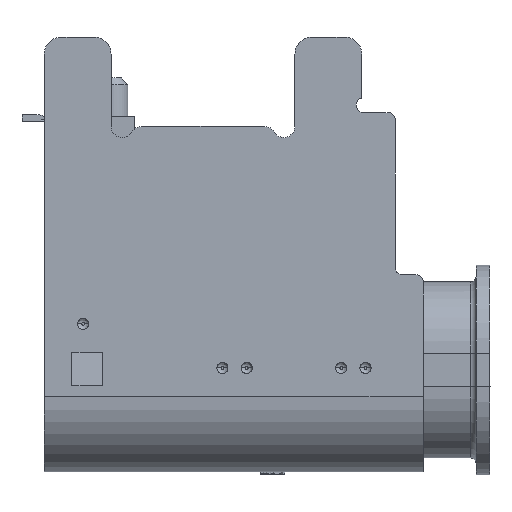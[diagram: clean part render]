
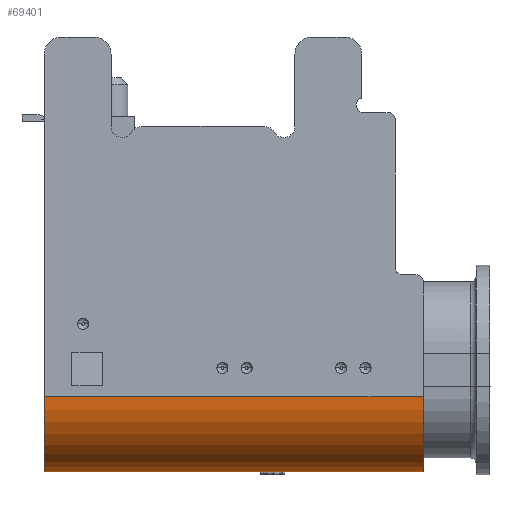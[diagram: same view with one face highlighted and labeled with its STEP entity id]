
A CAD part, left-side view. The second image highlights one B-rep face of the part: STEP entity #69401.
In plain terms, the highlighted cylindrical face has radius 1.35 mm (diameter 2.7 mm), a partial arc.
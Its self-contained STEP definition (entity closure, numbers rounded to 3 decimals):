
#99 = CIRCLE ( 'NONE', #64778, 1.35 ) ;
#1926 = VERTEX_POINT ( 'NONE', #2271 ) ;
#1936 = CIRCLE ( 'NONE', #4208, 1.35 ) ;
#2271 = CARTESIAN_POINT ( 'NONE',  ( -4.385, 2.821, 16.042 ) ) ;
#2750 = ORIENTED_EDGE ( 'NONE', *, *, #57543, .T. ) ;
#4208 = AXIS2_PLACEMENT_3D ( 'NONE', #35170, #23831, #56849 ) ;
#5917 = AXIS2_PLACEMENT_3D ( 'NONE', #26154, #8755, #41414 ) ;
#8376 = ORIENTED_EDGE ( 'NONE', *, *, #59628, .F. ) ;
#8755 = DIRECTION ( 'NONE',  ( 0., -1., 0. ) ) ;
#9784 = ORIENTED_EDGE ( 'NONE', *, *, #37291, .F. ) ;
#11524 = LINE ( 'NONE', #28555, #51788 ) ;
#15227 = VERTEX_POINT ( 'NONE', #39125 ) ;
#18314 = DIRECTION ( 'NONE',  ( 0., 1., 0. ) ) ;
#19003 = LINE ( 'NONE', #44965, #41565 ) ;
#19711 = EDGE_LOOP ( 'NONE', ( #9784, #48364, #8376, #2750 ) ) ;
#22943 = VERTEX_POINT ( 'NONE', #39833 ) ;
#23701 = FACE_OUTER_BOUND ( 'NONE', #19711, .T. ) ;
#23831 = DIRECTION ( 'NONE',  ( 0., -1., 0. ) ) ;
#26154 = CARTESIAN_POINT ( 'NONE',  ( -3.035, 2.821, 16.042 ) ) ;
#28555 = CARTESIAN_POINT ( 'NONE',  ( -4.385, 2.821, 16.042 ) ) ;
#32681 = VERTEX_POINT ( 'NONE', #38951 ) ;
#35170 = CARTESIAN_POINT ( 'NONE',  ( -3.035, 2.821, 16.042 ) ) ;
#36304 = CARTESIAN_POINT ( 'NONE',  ( -3.035, -3.979, 16.042 ) ) ;
#37291 = EDGE_CURVE ( 'NONE', #1926, #15227, #11524, .T. ) ;
#38951 = CARTESIAN_POINT ( 'NONE',  ( -3.035, 2.821, 14.692 ) ) ;
#39125 = CARTESIAN_POINT ( 'NONE',  ( -4.385, -3.979, 16.042 ) ) ;
#39833 = CARTESIAN_POINT ( 'NONE',  ( -3.035, -3.979, 14.692 ) ) ;
#41414 = DIRECTION ( 'NONE',  ( -1., 0., 0. ) ) ;
#41565 = VECTOR ( 'NONE', #18314, 1000. ) ;
#44965 = CARTESIAN_POINT ( 'NONE',  ( -3.035, -3.979, 14.692 ) ) ;
#47306 = DIRECTION ( 'NONE',  ( 0., 1., 0. ) ) ;
#48012 = DIRECTION ( 'NONE',  ( 0., 0., -1. ) ) ;
#48364 = ORIENTED_EDGE ( 'NONE', *, *, #60065, .T. ) ;
#51788 = VECTOR ( 'NONE', #54503, 1000. ) ;
#54503 = DIRECTION ( 'NONE',  ( 0., -1., 0. ) ) ;
#56849 = DIRECTION ( 'NONE',  ( -1., 0., 0. ) ) ;
#57543 = EDGE_CURVE ( 'NONE', #22943, #15227, #99, .T. ) ;
#59628 = EDGE_CURVE ( 'NONE', #22943, #32681, #19003, .T. ) ;
#60065 = EDGE_CURVE ( 'NONE', #1926, #32681, #1936, .T. ) ;
#64778 = AXIS2_PLACEMENT_3D ( 'NONE', #36304, #47306, #48012 ) ;
#67070 = CYLINDRICAL_SURFACE ( 'NONE', #5917, 1.35 ) ;
#69401 = ADVANCED_FACE ( 'NONE', ( #23701 ), #67070, .T. ) ;
